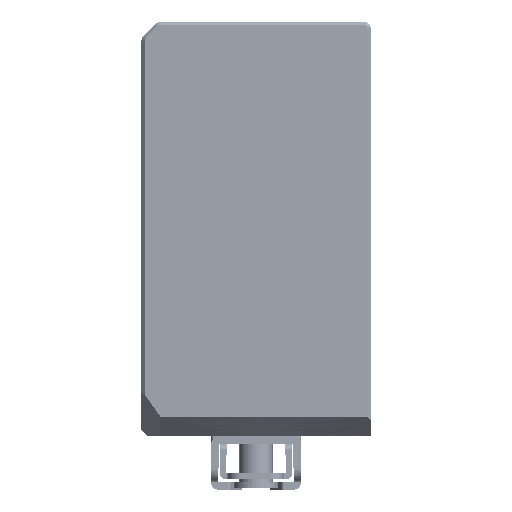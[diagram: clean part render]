
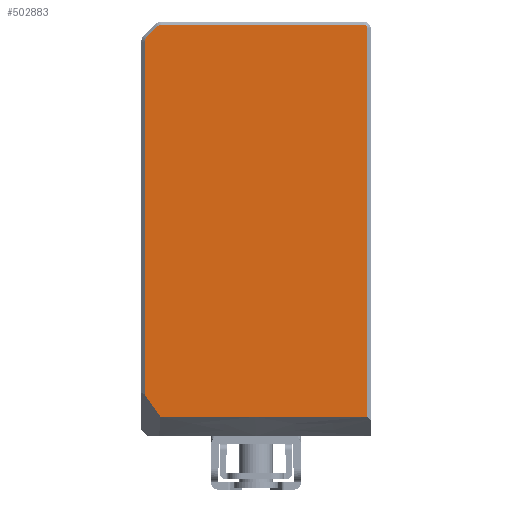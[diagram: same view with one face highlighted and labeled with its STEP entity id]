
A CAD part, front view. The second image highlights one B-rep face of the part: STEP entity #502883.
In plain terms, the highlighted planar face has unit normal (0, -1, 0).
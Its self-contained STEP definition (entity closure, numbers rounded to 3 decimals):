
#495649=DIRECTION('',(-1.,0.,0.));
#495650=VECTOR('',#495649,17.627);
#495651=CARTESIAN_POINT('',(26.5,-40.5,-59.5));
#495652=LINE('',#495651,#495650);
#495660=DIRECTION('',(-1.,0.,0.));
#495661=VECTOR('',#495660,14.873);
#495662=CARTESIAN_POINT('',(8.873,-40.5,-59.5));
#495663=LINE('',#495662,#495661);
#495668=DIRECTION('',(-0.577,0.,0.816));
#495669=VECTOR('',#495668,4.33);
#495670=CARTESIAN_POINT('',(-6.,-40.5,-59.5));
#495671=LINE('',#495670,#495669);
#495684=CARTESIAN_POINT('',(-7.45,-40.5,-0.642));
#495685=DIRECTION('',(0.,1.,0.));
#495686=DIRECTION('',(-1.,0.,0.));
#495687=AXIS2_PLACEMENT_3D('',#495684,#495685,#495686);
#495689=DIRECTION('',(0.707,0.,0.707));
#495690=VECTOR('',#495689,2.251);
#495691=CARTESIAN_POINT('',(-8.192,-40.5,0.1));
#495692=LINE('',#495691,#495690);
#495693=CARTESIAN_POINT('',(-5.858,-40.5,0.95));
#495694=DIRECTION('',(0.,1.,0.));
#495695=DIRECTION('',(-0.707,0.,0.707));
#495696=AXIS2_PLACEMENT_3D('',#495693,#495694,#495695);
#495698=CARTESIAN_POINT('',(26.,-40.5,1.5));
#495699=DIRECTION('',(0.,1.,0.));
#495700=DIRECTION('',(0.,0.,1.));
#495701=AXIS2_PLACEMENT_3D('',#495698,#495699,#495700);
#495703=DIRECTION('',(0.,0.,1.));
#495704=VECTOR('',#495703,55.322);
#495705=CARTESIAN_POINT('',(-8.5,-40.5,-55.964));
#495706=LINE('',#495705,#495704);
#495765=DIRECTION('',(1.,0.,0.));
#495766=VECTOR('',#495765,31.858);
#495767=CARTESIAN_POINT('',(-5.858,-40.5,
2.));
#495768=LINE('',#495767,#495766);
#495786=DIRECTION('',(0.,0.,-1.));
#495787=VECTOR('',#495786,61.);
#495788=CARTESIAN_POINT('',(26.5,-40.5,1.5));
#495789=LINE('',#495788,#495787);
#502005=CARTESIAN_POINT('',(8.873,-40.5,-59.5));
#502006=VERTEX_POINT('',#502005);
#502007=CARTESIAN_POINT('',(26.5,-40.5,-59.5));
#502008=VERTEX_POINT('',#502007);
#502009=CARTESIAN_POINT('',(-6.,-40.5,-59.5));
#502010=VERTEX_POINT('',#502009);
#502011=CARTESIAN_POINT('',(-8.5,-40.5,-55.964));
#502012=VERTEX_POINT('',#502011);
#502013=CARTESIAN_POINT('',(-8.5,-40.5,-0.642));
#502014=VERTEX_POINT('',#502013);
#502015=CARTESIAN_POINT('',(26.5,-40.5,1.5));
#502016=VERTEX_POINT('',#502015);
#502017=CARTESIAN_POINT('',(26.,-40.5,2.));
#502018=VERTEX_POINT('',#502017);
#502019=CARTESIAN_POINT('',(-5.858,-40.5,
2.));
#502020=VERTEX_POINT('',#502019);
#502021=CARTESIAN_POINT('',(-6.601,-40.5,1.692));
#502022=VERTEX_POINT('',#502021);
#502023=CARTESIAN_POINT('',(-8.192,-40.5,0.1));
#502024=VERTEX_POINT('',#502023);
#502859=CARTESIAN_POINT('',(9.,-40.5,-28.75));
#502860=DIRECTION('',(0.,1.,0.));
#502861=DIRECTION('',(0.,0.,-1.));
#502862=AXIS2_PLACEMENT_3D('',#502859,#502860,#502861);
#502863=PLANE('',#502862);
#502865=ORIENTED_EDGE('',*,*,#502864,.T.);
#502867=ORIENTED_EDGE('',*,*,#502866,.T.);
#502869=ORIENTED_EDGE('',*,*,#502868,.T.);
#502871=ORIENTED_EDGE('',*,*,#502870,.T.);
#502873=ORIENTED_EDGE('',*,*,#502872,.T.);
#502875=ORIENTED_EDGE('',*,*,#502874,.T.);
#502877=ORIENTED_EDGE('',*,*,#502876,.T.);
#502878=ORIENTED_EDGE('',*,*,#502808,.T.);
#502879=ORIENTED_EDGE('',*,*,#502836,.T.);
#502880=ORIENTED_EDGE('',*,*,#502847,.T.);
#502881=EDGE_LOOP('',(#502865,#502867,#502869,#502871,#502873,#502875,#502877,
#502878,#502879,#502880));
#502882=FACE_OUTER_BOUND('',#502881,.F.);
#495688=CIRCLE('',#495687,1.05);
#495697=CIRCLE('',#495696,1.05);
#495702=CIRCLE('',#495701,0.5);
#502808=EDGE_CURVE('',#502008,#502006,#495652,.T.);
#502836=EDGE_CURVE('',#502006,#502010,#495663,.T.);
#502847=EDGE_CURVE('',#502010,#502012,#495671,.T.);
#502864=EDGE_CURVE('',#502012,#502014,#495706,.T.);
#502866=EDGE_CURVE('',#502014,#502024,#495688,.T.);
#502868=EDGE_CURVE('',#502024,#502022,#495692,.T.);
#502870=EDGE_CURVE('',#502022,#502020,#495697,.T.);
#502872=EDGE_CURVE('',#502020,#502018,#495768,.T.);
#502874=EDGE_CURVE('',#502018,#502016,#495702,.T.);
#502876=EDGE_CURVE('',#502016,#502008,#495789,.T.);
#502883=ADVANCED_FACE('',(#502882),#502863,.F.);
